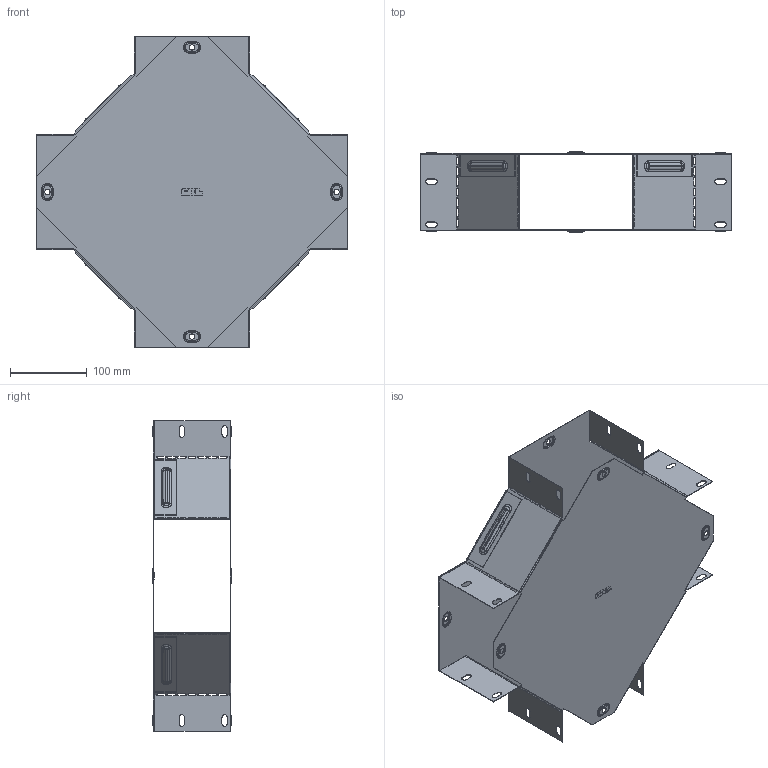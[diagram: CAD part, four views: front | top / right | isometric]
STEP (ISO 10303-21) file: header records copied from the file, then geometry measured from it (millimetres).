
FILE_DESCRIPTION (( 'STEP AP214' ), '1' );
FILE_NAME ('x10015008_捘.STEP', '2019-06-10T07:52:14', ( '砐錪賧瘔蠈錪 Windows' ), ( '' ), 'SwSTEP 2.0', 'SolidWorks 2018', '' );
FILE_SCHEMA (( 'AUTOMOTIVE_DESIGN' ));
Length unit declared in the file: millimetre
Products named in the file (1): x10015008_捘
Bounding box: 405.01 x 103.8 x 405.01 mm (x, y, z)
Volume: 242098.9 mm3; surface area: 610655.1 mm2
Topology: 2 solids, 2 shells, 1044 faces, 3180 edges, 2072 vertices
Faces by surface type: plane 550, cylinder 348, torus 128, bspline 18
Entity records: 36715 total; most frequent: CARTESIAN_POINT 7255, ORIENTED_EDGE 6360, DIRECTION 6086, EDGE_CURVE 3180, LINE 2256, VECTOR 2256, VERTEX_POINT 2072, AXIS2_PLACEMENT_3D 1915
